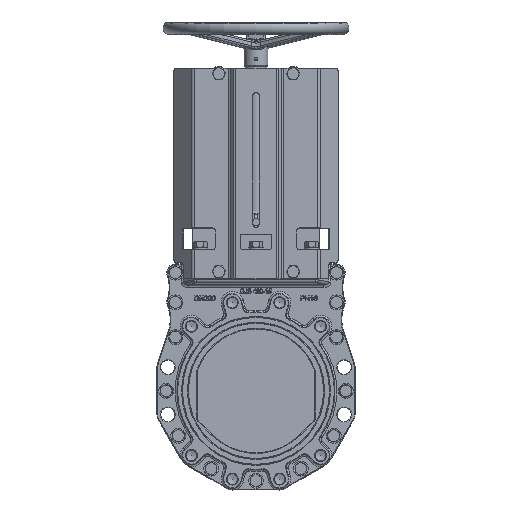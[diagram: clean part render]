
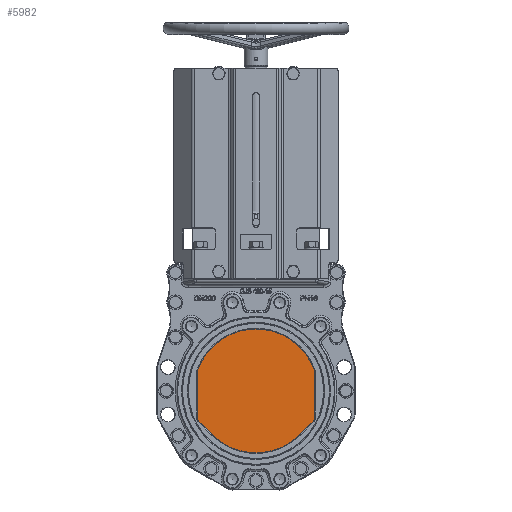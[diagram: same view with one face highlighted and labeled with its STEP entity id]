
A CAD part, top view. The second image highlights one B-rep face of the part: STEP entity #5982.
In plain terms, the highlighted planar face has unit normal (0, 0, 1).
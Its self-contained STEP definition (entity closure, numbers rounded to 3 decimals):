
#2603=FACE_OUTER_BOUND('',#13834,.T.);
#5982=ADVANCED_FACE('',(#2603),#8379,.T.);
#8379=PLANE('',#52528);
#10081=CIRCLE('',#52226,10.);
#10082=CIRCLE('',#52229,10.);
#10084=CIRCLE('',#52233,100.);
#10086=CIRCLE('',#52237,10.);
#10088=CIRCLE('',#52241,10.);
#10089=CIRCLE('',#52243,100.);
#13834=EDGE_LOOP('',(#23880,#23881,#23882,#23883,#23884,#23885,#23886,#23887,
#23888,#23889));
#23880=ORIENTED_EDGE('',*,*,#39631,.F.);
#23881=ORIENTED_EDGE('',*,*,#39656,.F.);
#23882=ORIENTED_EDGE('',*,*,#39654,.F.);
#23883=ORIENTED_EDGE('',*,*,#39651,.F.);
#23884=ORIENTED_EDGE('',*,*,#39648,.F.);
#23885=ORIENTED_EDGE('',*,*,#39645,.F.);
#23886=ORIENTED_EDGE('',*,*,#39642,.F.);
#23887=ORIENTED_EDGE('',*,*,#39639,.F.);
#23888=ORIENTED_EDGE('',*,*,#39636,.F.);
#23889=ORIENTED_EDGE('',*,*,#39633,.F.);
#34414=VERTEX_POINT('',#75272);
#34415=VERTEX_POINT('',#75274);
#34416=VERTEX_POINT('',#75278);
#34418=VERTEX_POINT('',#75284);
#34420=VERTEX_POINT('',#75290);
#34422=VERTEX_POINT('',#75296);
#34424=VERTEX_POINT('',#75302);
#34426=VERTEX_POINT('',#75308);
#34428=VERTEX_POINT('',#75314);
#34429=VERTEX_POINT('',#75319);
#39631=EDGE_CURVE('',#34414,#34415,#10081,.T.);
#39633=EDGE_CURVE('',#34415,#34416,#45524,.T.);
#39636=EDGE_CURVE('',#34416,#34418,#10082,.T.);
#39639=EDGE_CURVE('',#34418,#34420,#45528,.T.);
#39642=EDGE_CURVE('',#34420,#34422,#10084,.T.);
#39645=EDGE_CURVE('',#34422,#34424,#45532,.T.);
#39648=EDGE_CURVE('',#34424,#34426,#10086,.T.);
#39651=EDGE_CURVE('',#34426,#34428,#45536,.T.);
#39654=EDGE_CURVE('',#34428,#34429,#10088,.T.);
#39656=EDGE_CURVE('',#34429,#34414,#10089,.T.);
#45524=LINE('',#75277,#48586);
#45528=LINE('',#75289,#48590);
#45532=LINE('',#75301,#48594);
#45536=LINE('',#75313,#48598);
#48586=VECTOR('',#58941,1.);
#48590=VECTOR('',#58953,1.);
#48594=VECTOR('',#58965,1.);
#48598=VECTOR('',#58977,1.);
#52226=AXIS2_PLACEMENT_3D('',#75273,#58936,#58937);
#52229=AXIS2_PLACEMENT_3D('',#75283,#58946,#58947);
#52233=AXIS2_PLACEMENT_3D('',#75295,#58958,#58959);
#52237=AXIS2_PLACEMENT_3D('',#75307,#58970,#58971);
#52241=AXIS2_PLACEMENT_3D('',#75318,#58982,#58983);
#52243=AXIS2_PLACEMENT_3D('',#75322,#58987,#58988);
#52528=AXIS2_PLACEMENT_3D('',#78249,#59900,#59901);
#58936=DIRECTION('',(0.,0.,-1.));
#58937=DIRECTION('',(1.,0.,0.));
#58941=DIRECTION('',(0.,-1.,0.));
#58946=DIRECTION('',(0.,0.,-1.));
#58947=DIRECTION('',(1.,0.,0.));
#58953=DIRECTION('',(-0.707,-0.707,0.));
#58958=DIRECTION('',(0.,0.,-1.));
#58959=DIRECTION('',(1.,0.,0.));
#58965=DIRECTION('',(-0.707,0.707,0.));
#58970=DIRECTION('',(0.,0.,-1.));
#58971=DIRECTION('',(1.,0.,0.));
#58977=DIRECTION('',(0.,1.,0.));
#58982=DIRECTION('',(0.,0.,-1.));
#58983=DIRECTION('',(1.,0.,0.));
#58987=DIRECTION('',(0.,0.,-1.));
#58988=DIRECTION('',(1.,0.,0.));
#59900=DIRECTION('',(0.,0.,1.));
#59901=DIRECTION('',(1.,0.,0.));
#75272=CARTESIAN_POINT('',(94.444,32.867,4.));
#75273=CARTESIAN_POINT('',(85.,29.58,4.));
#75274=CARTESIAN_POINT('',(95.,29.58,4.));
#75277=CARTESIAN_POINT('',(95.,-46.421,4.));
#75278=CARTESIAN_POINT('',(95.,-42.279,4.));
#75283=CARTESIAN_POINT('',(85.,-42.279,4.));
#75284=CARTESIAN_POINT('',(92.071,-49.35,4.));
#75289=CARTESIAN_POINT('',(70.711,-70.711,4.));
#75290=CARTESIAN_POINT('',(70.711,-70.711,4.));
#75295=CARTESIAN_POINT('',(0.,0.,4.));
#75296=CARTESIAN_POINT('',(-70.711,-70.711,4.));
#75301=CARTESIAN_POINT('',(-95.,-46.421,4.));
#75302=CARTESIAN_POINT('',(-92.071,-49.35,4.));
#75307=CARTESIAN_POINT('',(-85.,-42.279,4.));
#75308=CARTESIAN_POINT('',(-95.,-42.279,4.));
#75313=CARTESIAN_POINT('',(-95.,31.225,4.));
#75314=CARTESIAN_POINT('',(-95.,29.58,4.));
#75318=CARTESIAN_POINT('',(-85.,29.58,4.));
#75319=CARTESIAN_POINT('',(-94.444,32.867,4.));
#75322=CARTESIAN_POINT('',(0.,0.,4.));
#78249=CARTESIAN_POINT('',(0.,109.489,4.));
